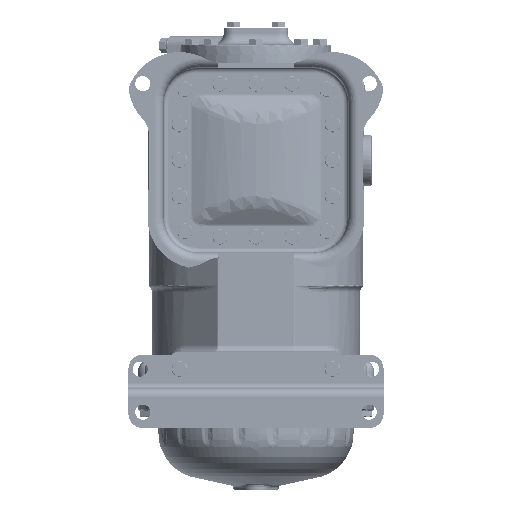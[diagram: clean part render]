
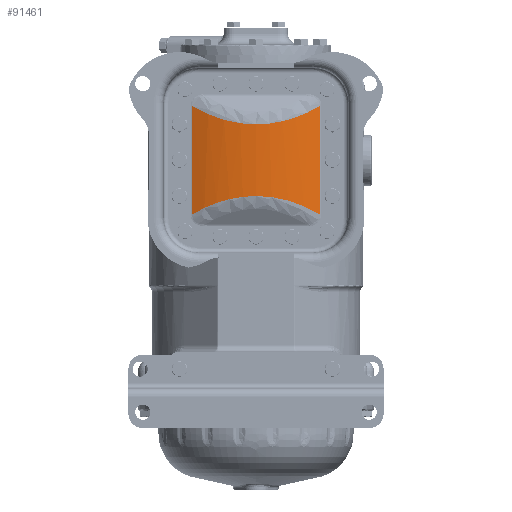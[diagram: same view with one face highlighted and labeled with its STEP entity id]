
A CAD part, front view. The second image highlights one B-rep face of the part: STEP entity #91461.
In plain terms, the highlighted cylindrical face has radius 168.148 mm (diameter 336.296 mm), a partial arc.
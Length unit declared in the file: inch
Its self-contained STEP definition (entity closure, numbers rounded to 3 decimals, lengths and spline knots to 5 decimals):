
#88843=CARTESIAN_POINT('',(7.37121,-0.23228,
-2.00103));
#88858=DIRECTION('',(0.,0.,-1.));
#88859=VECTOR('',#88858,4.24595);
#88860=CARTESIAN_POINT('',(7.37121,-0.23228,
-2.00103));
#88861=LINE('',#88860,#88859);
#88862=CARTESIAN_POINT('',(7.37121,-0.23228,
-6.24697));
#88863=CARTESIAN_POINT('',(7.26402,-0.27592,
-6.1828));
#88864=CARTESIAN_POINT('',(7.04866,-0.35703,
-6.06352));
#88865=CARTESIAN_POINT('',(6.72476,-0.46025,
-5.91175));
#88866=CARTESIAN_POINT('',(6.39901,-0.54605,
-5.7856));
#88867=CARTESIAN_POINT('',(6.07039,-0.61501,
-5.6842));
#88868=CARTESIAN_POINT('',(5.73725,-0.66747,
-5.60706));
#88869=CARTESIAN_POINT('',(5.39685,-0.70336,
-5.55429));
#88870=CARTESIAN_POINT('',(5.04898,-0.72173,
-5.52727));
#88871=CARTESIAN_POINT('',(4.69917,-0.72168,
-5.52735));
#88872=CARTESIAN_POINT('',(4.35154,-0.70322,
-5.55449));
#88873=CARTESIAN_POINT('',(4.01134,-0.66728,
-5.60734));
#88874=CARTESIAN_POINT('',(3.6784,-0.61478,
-5.68454));
#88875=CARTESIAN_POINT('',(3.35003,-0.54582,
-5.78594));
#88876=CARTESIAN_POINT('',(3.02457,-0.46005,
-5.91205));
#88877=CARTESIAN_POINT('',(2.70099,-0.3569,
-6.06372));
#88878=CARTESIAN_POINT('',(2.48586,-0.27587,
-6.18288));
#88879=CARTESIAN_POINT('',(2.37879,-0.23228,
-6.24697));
#88881=DIRECTION('',(0.,0.,1.));
#88882=VECTOR('',#88881,4.24595);
#88883=CARTESIAN_POINT('',(2.37879,-0.23228,
-6.24697));
#88884=LINE('',#88883,#88882);
#88885=CARTESIAN_POINT('',(2.37879,-0.23228,
-2.00103));
#88886=CARTESIAN_POINT('',(2.48582,-0.27585,
-2.0651));
#88887=CARTESIAN_POINT('',(2.70088,-0.35686,
-2.18423));
#88888=CARTESIAN_POINT('',(3.02442,-0.46001,
-2.33588));
#88889=CARTESIAN_POINT('',(3.34992,-0.54579,
-2.46202));
#88890=CARTESIAN_POINT('',(3.67841,-0.61478,
-2.56347));
#88891=CARTESIAN_POINT('',(4.01155,-0.66731,
-2.64071));
#88892=CARTESIAN_POINT('',(4.35203,-0.70327,
-2.69358));
#88893=CARTESIAN_POINT('',(4.69997,-0.72171,
-2.72069));
#88894=CARTESIAN_POINT('',(5.04979,-0.72171,
-2.7207));
#88895=CARTESIAN_POINT('',(5.39738,-0.70331,
-2.69364));
#88896=CARTESIAN_POINT('',(5.73752,-0.66743,
-2.64088));
#88897=CARTESIAN_POINT('',(6.07049,-0.61499,
-2.56377));
#88898=CARTESIAN_POINT('',(6.399,-0.54605,
-2.4624));
#88899=CARTESIAN_POINT('',(6.72471,-0.46027,
-2.33627));
#88900=CARTESIAN_POINT('',(7.04862,-0.35705,
-2.1845));
#88901=CARTESIAN_POINT('',(7.264,-0.27593,
-2.06521));
#88902=CARTESIAN_POINT('',(7.37121,-0.23228,
-2.00103));
#88938=CARTESIAN_POINT('',(2.37879,-0.23228,
-6.24697));
#89089=VERTEX_POINT('',#88843);
#89092=CARTESIAN_POINT('',(7.37121,-0.23228,
-6.24697));
#89093=VERTEX_POINT('',#89092);
#89102=VERTEX_POINT('',#88938);
#89104=CARTESIAN_POINT('',(2.37879,-0.23228,
-2.00103));
#89105=VERTEX_POINT('',#89104);
#91447=CARTESIAN_POINT('',(4.875,5.89906,-1.6315));
#91448=DIRECTION('',(0.,0.,-1.));
#91449=DIRECTION('',(0.,-1.,0.));
#91450=AXIS2_PLACEMENT_3D('',#91447,#91448,#91449);
#91451=CYLINDRICAL_SURFACE('',#91450,6.62);
#91453=ORIENTED_EDGE('',*,*,#91452,.T.);
#91455=ORIENTED_EDGE('',*,*,#91454,.T.);
#91457=ORIENTED_EDGE('',*,*,#91456,.T.);
#91458=ORIENTED_EDGE('',*,*,#91438,.T.);
#91459=EDGE_LOOP('',(#91453,#91455,#91457,#91458));
#91460=FACE_OUTER_BOUND('',#91459,.F.);
#88880=B_SPLINE_CURVE_WITH_KNOTS('',3,(#88862,#88863,#88864,#88865,#88866,
#88867,#88868,#88869,#88870,#88871,#88872,#88873,#88874,#88875,#88876,#88877,
#88878,#88879),.UNSPECIFIED.,.F.,.F.,(4,1,1,1,1,1,1,1,1,1,1,1,1,1,1,4),(0.,
0.06667,0.13333,0.2,0.26667,0.33333,
0.4,0.46667,0.53333,0.6,0.66667,
0.73333,0.8,0.86667,0.93333,1.),
.UNSPECIFIED.);
#88903=B_SPLINE_CURVE_WITH_KNOTS('',3,(#88885,#88886,#88887,#88888,#88889,
#88890,#88891,#88892,#88893,#88894,#88895,#88896,#88897,#88898,#88899,#88900,
#88901,#88902),.UNSPECIFIED.,.F.,.F.,(4,1,1,1,1,1,1,1,1,1,1,1,1,1,1,4),(0.,
0.06667,0.13333,0.2,0.26667,0.33333,
0.4,0.46667,0.53333,0.6,0.66667,
0.73333,0.8,0.86667,0.93333,1.),
.UNSPECIFIED.);
#91438=EDGE_CURVE('',#89105,#89089,#88903,.T.);
#91452=EDGE_CURVE('',#89089,#89093,#88861,.T.);
#91454=EDGE_CURVE('',#89093,#89102,#88880,.T.);
#91456=EDGE_CURVE('',#89102,#89105,#88884,.T.);
#91461=ADVANCED_FACE('',(#91460),#91451,.T.);
